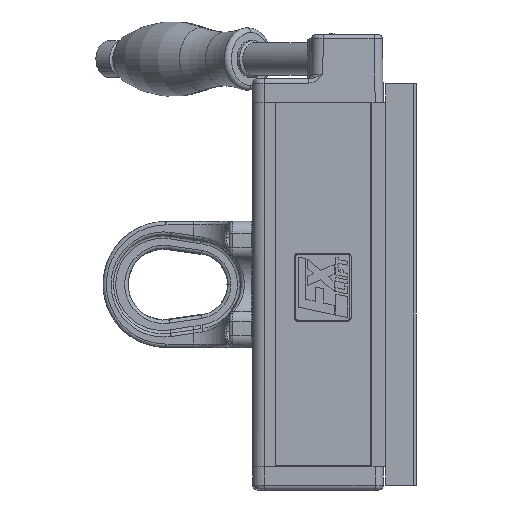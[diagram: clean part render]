
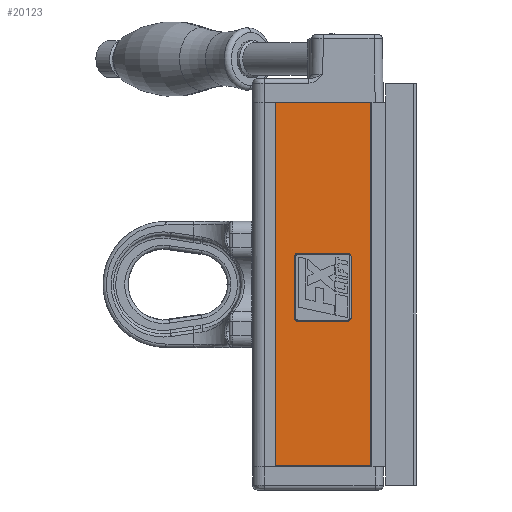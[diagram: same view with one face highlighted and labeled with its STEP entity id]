
A CAD part, left-side view. The second image highlights one B-rep face of the part: STEP entity #20123.
In plain terms, the highlighted planar face has unit normal (-1, 0, 0).
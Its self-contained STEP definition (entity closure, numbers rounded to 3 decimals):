
#335 = LINE ( 'NONE', #14051, #28749 ) ;
#375 = VECTOR ( 'NONE', #29170, 1000. ) ;
#1332 = EDGE_LOOP ( 'NONE', ( #32622, #41630, #24650, #27635 ) ) ;
#1847 = CARTESIAN_POINT ( 'NONE',  ( -31.5, 13.488, -15.789 ) ) ;
#1987 = CARTESIAN_POINT ( 'NONE',  ( -31.5, -7.563, 13.357 ) ) ;
#1991 = VERTEX_POINT ( 'NONE', #9951 ) ;
#2157 = EDGE_CURVE ( 'NONE', #31639, #36246, #44651, .T. ) ;
#3008 = EDGE_CURVE ( 'NONE', #39216, #8103, #37565, .T. ) ;
#3133 = CARTESIAN_POINT ( 'NONE',  ( -31.5, 15.107, 0. ) ) ;
#3488 = FACE_BOUND ( 'NONE', #21264, .T. ) ;
#4119 = VERTEX_POINT ( 'NONE', #35245 ) ;
#4710 = LINE ( 'NONE', #46560, #14597 ) ;
#4891 = VERTEX_POINT ( 'NONE', #20861 ) ;
#5701 = CARTESIAN_POINT ( 'NONE',  ( -31.5, -9.182, 11.738 ) ) ;
#6929 = CARTESIAN_POINT ( 'NONE',  ( -31.5, -9.182, 0. ) ) ;
#8103 = VERTEX_POINT ( 'NONE', #45051 ) ;
#8261 = VECTOR ( 'NONE', #43315, 1000. ) ;
#8328 = B_SPLINE_CURVE_WITH_KNOTS ( 'NONE', 3,
 ( #1987, #46504, #20483, #5701 ),
 .UNSPECIFIED., .F., .F.,
 ( 4, 4 ),
 ( 0.333, 0.444 ),
 .UNSPECIFIED. ) ;
#8727 = CARTESIAN_POINT ( 'NONE',  ( -31.5, -7.563, -15.789 ) ) ;
#9035 = EDGE_CURVE ( 'NONE', #25948, #1991, #18159, .T. ) ;
#9951 = CARTESIAN_POINT ( 'NONE',  ( -31.5, 23.289, -77.5 ) ) ;
#11247 = B_SPLINE_CURVE_WITH_KNOTS ( 'NONE', 3,
 ( #24690, #28418, #35903, #13639 ),
 .UNSPECIFIED., .F., .F.,
 ( 4, 4 ),
 ( 0.556, 0.667 ),
 .UNSPECIFIED. ) ;
#11568 = CARTESIAN_POINT ( 'NONE',  ( -31.5, 15.107, -14.17 ) ) ;
#11757 = EDGE_CURVE ( 'NONE', #36176, #4891, #32474, .T. ) ;
#13639 = CARTESIAN_POINT ( 'NONE',  ( -31.5, -7.563, -15.789 ) ) ;
#14004 = CARTESIAN_POINT ( 'NONE',  ( -31.5, -17.923, -77.5 ) ) ;
#14047 = CARTESIAN_POINT ( 'NONE',  ( -31.5, 13.488, 13.357 ) ) ;
#14051 = CARTESIAN_POINT ( 'NONE',  ( -31.5, -18.567, -77.5 ) ) ;
#14352 = CARTESIAN_POINT ( 'NONE',  ( -31.5, 2.683, 0.25 ) ) ;
#14389 = CARTESIAN_POINT ( 'NONE',  ( -31.5, -9.182, 11.738 ) ) ;
#14437 = CARTESIAN_POINT ( 'NONE',  ( -31.5, -17.923, 78. ) ) ;
#14597 = VECTOR ( 'NONE', #20387, 1000. ) ;
#15756 = ORIENTED_EDGE ( 'NONE', *, *, #25933, .T. ) ;
#15932 = EDGE_CURVE ( 'NONE', #17544, #30235, #8328, .T. ) ;
#16000 = ORIENTED_EDGE ( 'NONE', *, *, #24452, .T. ) ;
#16785 = AXIS2_PLACEMENT_3D ( 'NONE', #14352, #47814, #25530 ) ;
#16968 = VECTOR ( 'NONE', #38307, 1000. ) ;
#17544 = VERTEX_POINT ( 'NONE', #46867 ) ;
#17795 = DIRECTION ( 'NONE',  ( 0., -1., 0. ) ) ;
#18159 = LINE ( 'NONE', #24574, #8261 ) ;
#18368 = ORIENTED_EDGE ( 'NONE', *, *, #15932, .T. ) ;
#18740 = DIRECTION ( 'NONE',  ( 0., 1., 0. ) ) ;
#20123 = ADVANCED_FACE ( 'NONE', ( #23219, #3488 ), #36597, .F. ) ;
#20348 = ORIENTED_EDGE ( 'NONE', *, *, #46852, .T. ) ;
#20387 = DIRECTION ( 'NONE',  ( 0., -1., 0. ) ) ;
#20483 = CARTESIAN_POINT ( 'NONE',  ( -31.5, -9.182, 12.629 ) ) ;
#20861 = CARTESIAN_POINT ( 'NONE',  ( -31.5, 15.107, 11.738 ) ) ;
#21264 = EDGE_LOOP ( 'NONE', ( #38672, #30920, #23944, #15756, #18368, #20348, #16000, #28149 ) ) ;
#21363 = CARTESIAN_POINT ( 'NONE',  ( -31.5, 15.107, 11.738 ) ) ;
#22621 = CARTESIAN_POINT ( 'NONE',  ( -31.5, 14.378, -15.789 ) ) ;
#23219 = FACE_OUTER_BOUND ( 'NONE', #1332, .T. ) ;
#23944 = ORIENTED_EDGE ( 'NONE', *, *, #37677, .T. ) ;
#24452 = EDGE_CURVE ( 'NONE', #28465, #31639, #11247, .T. ) ;
#24574 = CARTESIAN_POINT ( 'NONE',  ( -31.5, 23.289, -78. ) ) ;
#24650 = ORIENTED_EDGE ( 'NONE', *, *, #33875, .T. ) ;
#24690 = CARTESIAN_POINT ( 'NONE',  ( -31.5, -9.182, -14.17 ) ) ;
#25530 = DIRECTION ( 'NONE',  ( 0., 0., -1. ) ) ;
#25933 = EDGE_CURVE ( 'NONE', #4119, #17544, #4710, .T. ) ;
#25948 = VERTEX_POINT ( 'NONE', #27992 ) ;
#26338 = CARTESIAN_POINT ( 'NONE',  ( -31.5, 15.107, -15.06 ) ) ;
#27635 = ORIENTED_EDGE ( 'NONE', *, *, #9035, .T. ) ;
#27992 = CARTESIAN_POINT ( 'NONE',  ( -31.5, 23.289, 78. ) ) ;
#28149 = ORIENTED_EDGE ( 'NONE', *, *, #2157, .T. ) ;
#28418 = CARTESIAN_POINT ( 'NONE',  ( -31.5, -9.182, -15.06 ) ) ;
#28465 = VERTEX_POINT ( 'NONE', #46881 ) ;
#28749 = VECTOR ( 'NONE', #17795, 1000. ) ;
#28806 = VECTOR ( 'NONE', #36691, 1000. ) ;
#29087 = DIRECTION ( 'NONE',  ( 0., 0., 1. ) ) ;
#29170 = DIRECTION ( 'NONE',  ( 0., 0., -1. ) ) ;
#30235 = VERTEX_POINT ( 'NONE', #14389 ) ;
#30920 = ORIENTED_EDGE ( 'NONE', *, *, #11757, .T. ) ;
#31639 = VERTEX_POINT ( 'NONE', #8727 ) ;
#32474 = LINE ( 'NONE', #3133, #41267 ) ;
#32622 = ORIENTED_EDGE ( 'NONE', *, *, #35861, .T. ) ;
#33815 = CARTESIAN_POINT ( 'NONE',  ( -31.5, 13.488, -15.789 ) ) ;
#33875 = EDGE_CURVE ( 'NONE', #8103, #25948, #37915, .T. ) ;
#34652 = CARTESIAN_POINT ( 'NONE',  ( -31.5, 15.107, -14.17 ) ) ;
#34699 = VECTOR ( 'NONE', #18740, 1000. ) ;
#34930 = EDGE_CURVE ( 'NONE', #36246, #36176, #45993, .T. ) ;
#35245 = CARTESIAN_POINT ( 'NONE',  ( -31.5, 13.488, 13.357 ) ) ;
#35861 = EDGE_CURVE ( 'NONE', #1991, #39216, #335, .T. ) ;
#35903 = CARTESIAN_POINT ( 'NONE',  ( -31.5, -8.453, -15.789 ) ) ;
#36176 = VERTEX_POINT ( 'NONE', #34652 ) ;
#36246 = VERTEX_POINT ( 'NONE', #1847 ) ;
#36315 = CARTESIAN_POINT ( 'NONE',  ( -31.5, 14.378, 13.357 ) ) ;
#36597 = PLANE ( 'NONE',  #16785 ) ;
#36691 = DIRECTION ( 'NONE',  ( 0., 0., 1. ) ) ;
#37252 = CARTESIAN_POINT ( 'NONE',  ( -31.5, 0., -15.789 ) ) ;
#37565 = LINE ( 'NONE', #14437, #28806 ) ;
#37677 = EDGE_CURVE ( 'NONE', #4891, #4119, #41207, .T. ) ;
#37915 = LINE ( 'NONE', #45813, #16968 ) ;
#38307 = DIRECTION ( 'NONE',  ( 0., 1., 0. ) ) ;
#38672 = ORIENTED_EDGE ( 'NONE', *, *, #34930, .T. ) ;
#38707 = LINE ( 'NONE', #6929, #375 ) ;
#39216 = VERTEX_POINT ( 'NONE', #14004 ) ;
#41207 = B_SPLINE_CURVE_WITH_KNOTS ( 'NONE', 3,
 ( #21363, #43664, #36315, #14047 ),
 .UNSPECIFIED., .F., .F.,
 ( 4, 4 ),
 ( 0.111, 0.222 ),
 .UNSPECIFIED. ) ;
#41267 = VECTOR ( 'NONE', #29087, 1000. ) ;
#41630 = ORIENTED_EDGE ( 'NONE', *, *, #3008, .T. ) ;
#43315 = DIRECTION ( 'NONE',  ( 0., 0., -1. ) ) ;
#43664 = CARTESIAN_POINT ( 'NONE',  ( -31.5, 15.107, 12.629 ) ) ;
#44651 = LINE ( 'NONE', #37252, #34699 ) ;
#45051 = CARTESIAN_POINT ( 'NONE',  ( -31.5, -17.923, 78. ) ) ;
#45813 = CARTESIAN_POINT ( 'NONE',  ( -31.5, -18.567, 78. ) ) ;
#45993 = B_SPLINE_CURVE_WITH_KNOTS ( 'NONE', 3,
 ( #33815, #22621, #26338, #11568 ),
 .UNSPECIFIED., .F., .F.,
 ( 4, 4 ),
 ( 0.778, 1. ),
 .UNSPECIFIED. ) ;
#46504 = CARTESIAN_POINT ( 'NONE',  ( -31.5, -8.453, 13.357 ) ) ;
#46560 = CARTESIAN_POINT ( 'NONE',  ( -31.5, 0., 13.357 ) ) ;
#46852 = EDGE_CURVE ( 'NONE', #30235, #28465, #38707, .T. ) ;
#46867 = CARTESIAN_POINT ( 'NONE',  ( -31.5, -7.563, 13.357 ) ) ;
#46881 = CARTESIAN_POINT ( 'NONE',  ( -31.5, -9.182, -14.17 ) ) ;
#47814 = DIRECTION ( 'NONE',  ( 1., 0., 0. ) ) ;
